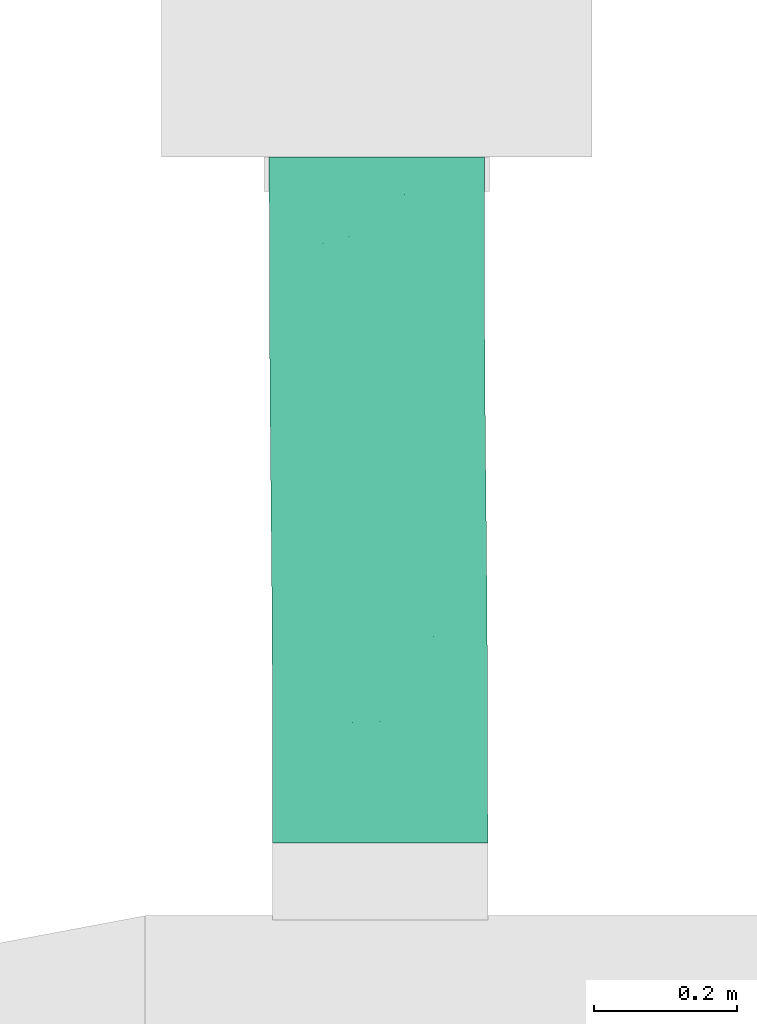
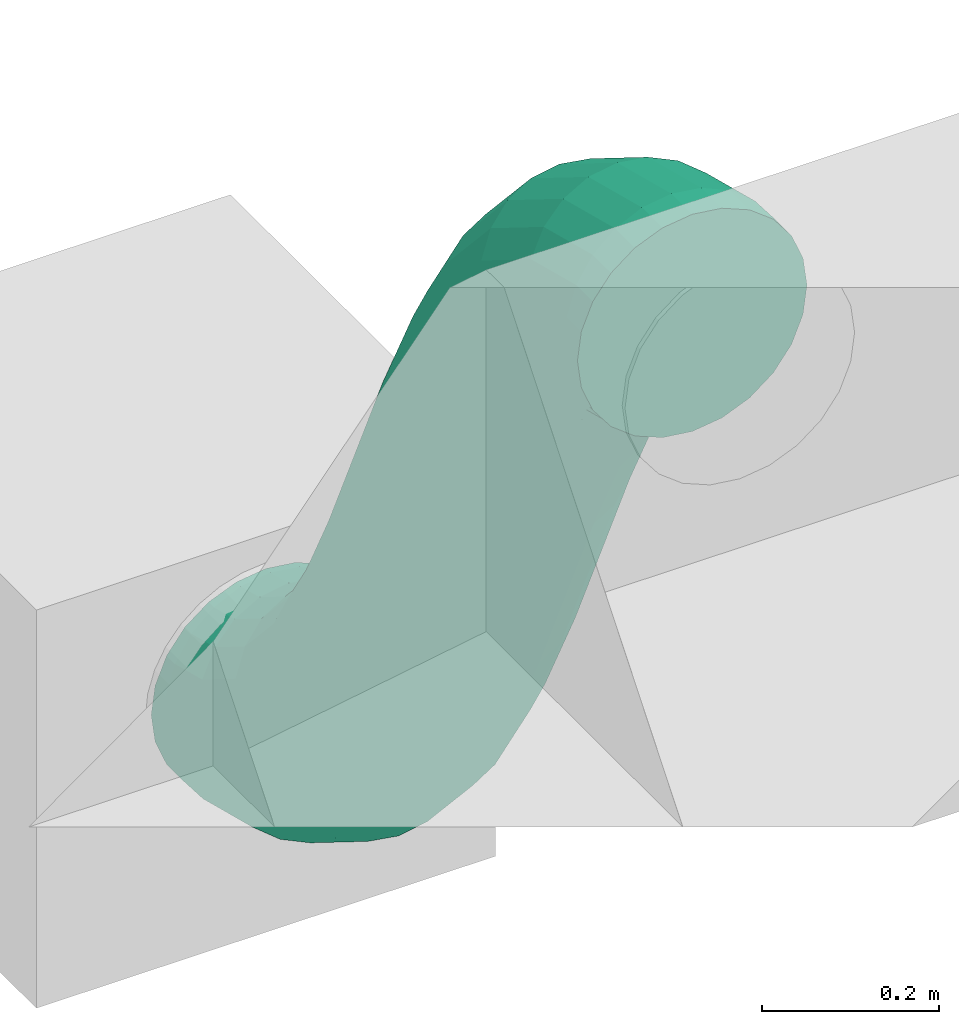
# One storey, part 39 of 60: 1 flow segment.
"""IFC2X3 building model written with IfcOpenShell, lengths in millimetres."""

from ifc_helpers import new_model, entity, si_unit, converted_unit, derived_unit, direction, frame, origin, place, context, subcontext, project, spatial, faceted_brep, type_object, element, save


model = new_model("IFC2X3")

# Units and contexts
model_context = context("Model", 3, precision=0.01, world=origin(), true_north=direction((6.123233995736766e-17, 1.0)))
body_context = subcontext(model_context, "Body", "Model", "MODEL_VIEW")
ifc_project = project(units=[si_unit("LENGTHUNIT", "METRE", prefix="MILLI"), converted_unit("PLANEANGLEUNIT", "DEGREE", entity("IfcPlaneAngleMeasure", 0.017453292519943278), si_unit("PLANEANGLEUNIT", "RADIAN"), dimensions=[0, 0, 0, 0, 0, 0, 0]), si_unit("AREAUNIT", "SQUARE_METRE"), derived_unit("THERMALTRANSMITTANCEUNIT", [(si_unit("MASSUNIT", "GRAM", prefix="KILO"), 1), (si_unit("THERMODYNAMICTEMPERATUREUNIT", "KELVIN"), -1), (si_unit("TIMEUNIT", "SECOND"), -3)])], contexts=[model_context])

# Site, building, storey
site_placement = place(None, origin())
site = spatial("IfcSite", under=ifc_project, at=site_placement, Name="Default", CompositionType="ELEMENT")
building_placement = place(site_placement, origin())
building = spatial("IfcBuilding", under=site, at=building_placement, Name="Praça Pedro II, 1301 - Centro (Sul), Teresina - PI, 64001-100", CompositionType="ELEMENT")
storey_placement = place(building_placement, frame((0.0, 0.0, 6040.0)))
storey = spatial("IfcBuildingStorey", under=building, at=storey_placement, Name="2PAV", CompositionType="ELEMENT", Elevation=6040.0)

# Flow segment
duct_segment_type = type_object("IfcDuctSegmentType", Name="Duto flexível redondo:Flexível - Redondo", PredefinedType="FLEXIBLESEGMENT")
flow_segment_placement = place(storey_placement, frame((22400.39412110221, -64268.308035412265, 2260.904727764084)))
element("IfcFlowSegment", 1, at=flow_segment_placement, inside=storey, type_object=duct_segment_type, Name="Duto flexível redondo:Flexível - Redondo", ObjectType="Duto flexível redondo:Flexível - Redondo", context=body_context, shape_type="Brep", body=[
    faceted_brep([(76.59527223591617, 956.3910904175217, 281.49908280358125), (112.77241547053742, 956.3910904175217, 296.48414617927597), (151.59527223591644, 956.3910904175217, 301.5952722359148), (190.41812900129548, 956.3910904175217, 296.48414617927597), (226.59527223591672, 956.3910904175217, 281.49908280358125), (257.66128941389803, 956.3910904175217, 257.66128941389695), (281.49908280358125, 956.3910904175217, 226.59527223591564), (296.48414617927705, 956.3910904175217, 190.41812900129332), (301.595272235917, 956.3910904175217, 151.59527223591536), (296.48414617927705, 956.3910904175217, 112.77241547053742), (281.49908280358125, 956.3910904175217, 76.59527223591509), (257.66128941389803, 956.3910904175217, 45.529255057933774), (226.59527223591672, 956.3910904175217, 21.691461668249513), (190.41812900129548, 956.3910904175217, 6.706398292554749), (151.59527223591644, 956.3910904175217, 1.5952722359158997), (112.77241547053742, 956.3910904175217, 6.706398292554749), (76.59527223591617, 956.3910904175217, 21.691461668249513), (45.52925505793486, 956.3910904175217, 45.529255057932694), (21.69146166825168, 956.3910904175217, 76.59527223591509), (6.706398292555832, 956.3910904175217, 112.77241547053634), (1.5952722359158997, 956.3910904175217, 151.59527223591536), (6.706398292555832, 956.3910904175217, 190.41812900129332), (21.69146166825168, 956.3910904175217, 226.59527223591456), (45.52925505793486, 956.3910904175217, 257.66128941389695), (296.48414617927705, 923.4567405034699, 112.7724154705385), (281.49908280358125, 918.8850771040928, 76.59527223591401), (257.66128941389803, 914.9530725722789, 45.529255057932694), (301.595272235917, 928.3565114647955, 151.59527223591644), (226.59527223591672, 911.9286865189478, 21.691461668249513), (190.41812900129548, 910.0180258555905, 6.706398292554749), (151.59527223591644, 909.3512989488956, 1.5952722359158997), (112.77241547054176, 909.9739421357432, 6.706398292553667), (76.59527223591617, 911.843523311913, 21.691461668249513), (45.52925505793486, 914.8326336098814, 45.529255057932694), (21.69146166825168, 918.7375701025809, 76.59527223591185), (6.706398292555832, 923.2922178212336, 112.77241547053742), (1.5952722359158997, 928.1861850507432, 151.59527223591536), (6.706398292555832, 933.0859560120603, 190.41812900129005), (21.69146166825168, 937.6576194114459, 226.59527223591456), (45.52925505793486, 941.5896239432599, 257.6612894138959), (112.77241547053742, 946.5246706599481, 296.4841461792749), (151.59527223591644, 947.191397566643, 301.5952722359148), (76.59527223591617, 944.6140099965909, 281.49908280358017), (226.59527223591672, 944.6991732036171, 281.49908280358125), (257.66128941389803, 941.7100629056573, 257.66128941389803), (190.41812900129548, 946.5687543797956, 296.48414617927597), (296.48414617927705, 933.250478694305, 190.41812900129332), (281.49908280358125, 937.8051264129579, 226.5952722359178), (156.400319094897, 0.0, 1369.095272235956), (117.57746232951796, 0.0, 1363.9841461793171), (81.4003190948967, 0.0, 1348.9990828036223), (50.334301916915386, 0.0, 1325.161289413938), (26.49650852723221, 0.0, 1294.0952722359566), (11.511445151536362, 0.0, 1257.9181290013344), (6.400319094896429, 0.0, 1219.0952722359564), (11.511445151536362, 0.0, 1180.2724154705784), (26.49650852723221, 0.0, 1144.0952722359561), (50.334301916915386, 0.0, 1113.0292550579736), (81.4003190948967, 0.0, 1089.1914616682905), (117.57746232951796, 0.0, 1074.2063982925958), (156.400319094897, 0.0, 1069.0952722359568), (195.223175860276, 0.0, 1074.2063982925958), (231.40031909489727, 0.0, 1089.1914616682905), (262.46633627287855, 0.0, 1113.0292550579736), (286.30412966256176, 0.0, 1144.0952722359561), (301.2891930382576, 0.0, 1180.2724154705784), (306.40031909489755, 0.0, 1219.0952722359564), (301.2891930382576, 0.0, 1257.9181290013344), (286.30412966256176, 0.0, 1294.0952722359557), (262.46633627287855, 0.0, 1325.161289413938), (231.40031909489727, 0.0, 1348.9990828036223), (195.223175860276, 0.0, 1363.9841461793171), (301.68960486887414, 846.603074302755, 172.55242179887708), (296.590624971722, 831.1768263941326, 136.4279830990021), (281.6168944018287, 816.7835795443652, 102.76856144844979), (257.7888481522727, 804.404209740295, 73.86799080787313), (226.7303281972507, 794.8823505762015, 51.69579730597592), (190.55792134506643, 788.8669010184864, 37.76297928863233), (151.73671734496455, 786.7678040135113, 33.01903527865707), (112.91231709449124, 788.7281095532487, 37.78725722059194), (76.73053931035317, 794.6142260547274, 51.74269866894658), (45.657112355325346, 804.025024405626, 73.93431935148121), (21.80963892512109, 816.319174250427, 102.84979699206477), (6.813284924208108, 830.6588495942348, 136.51858957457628), (1.6900270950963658, 846.0668252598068, 172.64622452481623), (6.789006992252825, 861.4930731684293, 208.7706632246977), (21.762737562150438, 875.8863200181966, 242.43008487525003), (45.590783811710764, 888.2656898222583, 271.3306555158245), (76.64930376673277, 897.7875489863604, 293.5028490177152), (112.82171061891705, 903.8029985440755, 307.4356670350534), (151.64291461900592, 905.9020955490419, 312.17961104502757), (190.46731486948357, 903.9417900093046, 307.4113891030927), (226.649092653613, 898.0556735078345, 293.45594765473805), (257.72251960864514, 888.6448751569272, 271.2643269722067), (296.56634703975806, 862.0110499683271, 208.68005674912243), (281.5699930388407, 876.3507253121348, 242.34884933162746), (301.9505230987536, 753.2724303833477, 230.51860164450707), (296.87843575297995, 728.2266969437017, 200.36867254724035), (281.92979690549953, 704.8581224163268, 172.28368429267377), (258.1233315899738, 684.7592365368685, 148.17758241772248), (227.08141107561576, 669.2997451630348, 129.6931579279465), (190.91949094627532, 659.5331870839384, 118.09009380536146), (152.1019462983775, 656.1251370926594, 114.1591196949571), (113.27412865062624, 659.3078481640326, 118.16812498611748), (77.08208960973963, 668.8644237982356, 129.84390259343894), (45.99225682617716, 684.1435991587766, 148.39076756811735), (22.123351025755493, 704.104123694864, 172.54478171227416), (7.101998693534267, 727.385720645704, 200.659888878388), (1.951880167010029, 752.4017876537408, 230.82009097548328), (7.023967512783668, 777.4475210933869, 260.97002007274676), (21.972606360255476, 800.8160956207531, 289.0550083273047), (45.779071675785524, 820.9149815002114, 313.16111020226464), (76.82099219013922, 836.3744728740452, 331.6455346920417), (112.98291231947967, 846.1410309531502, 343.2485988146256), (151.80045696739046, 849.5490809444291, 347.1795729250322), (190.62827461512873, 846.3663698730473, 343.17056763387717), (226.82031365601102, 836.8097942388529, 331.49479002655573), (257.91014643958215, 821.5306188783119, 312.9479250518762), (296.80040457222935, 778.2884973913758, 260.6788037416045), (281.7790522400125, 801.570094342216, 288.79391090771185), (302.3448797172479, 673.1233690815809, 318.1297535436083), (297.3017063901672, 642.2011488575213, 294.4034277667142), (282.3800453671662, 613.3495997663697, 272.31189357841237), (258.5967831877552, 588.534907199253, 253.36065252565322), (227.57270986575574, 569.4481514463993, 238.84120036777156), (191.42206472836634, 557.3900633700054, 229.7430137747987), (152.60845449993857, 553.1823817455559, 226.68611912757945), (113.7769625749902, 557.1118531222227, 229.87883874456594), (77.57389095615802, 568.910690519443, 239.10359406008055), (46.466419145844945, 587.7748226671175, 253.73173324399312), (22.574469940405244, 612.4186901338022, 272.7663727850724), (7.526240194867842, 641.1628540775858, 294.91033345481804), (2.347241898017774, 672.0484472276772, 318.65454092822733), (7.390415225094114, 702.9706674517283, 342.3808667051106), (22.31207624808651, 731.8222165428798, 364.47240089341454), (46.09533842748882, 756.6369091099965, 383.42364194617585), (77.1194117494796, 775.723664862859, 397.9430941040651), (113.270056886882, 787.7817529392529, 407.0412806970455), (152.0836671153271, 791.989434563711, 410.09817534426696), (190.91515904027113, 788.0599631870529, 406.9054557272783), (227.1182306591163, 776.2611257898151, 397.68070041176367), (258.2257024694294, 757.3969936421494, 383.0525612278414), (297.1658814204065, 704.0089622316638, 341.8739610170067), (282.1176516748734, 732.7531261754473, 364.01792168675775), (302.83949901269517, 602.8561631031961, 428.0154868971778), (297.8161761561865, 569.113921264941, 408.6991862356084), (282.9130363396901, 537.6311900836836, 390.72236487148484), (259.14570391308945, 510.55346566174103, 375.31011347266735), (228.1338833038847, 489.72605017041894, 363.51275150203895), (191.990978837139, 476.5682975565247, 356.13424968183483), (153.18006972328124, 471.9768869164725, 353.6774407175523), (114.34605528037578, 476.2647152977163, 356.3097520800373), (78.1354094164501, 489.1395742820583, 363.8517961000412), (47.01582780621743, 509.7240635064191, 375.7895949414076), (23.108058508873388, 536.6153840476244, 391.30960734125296), (8.04137649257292, 567.9809368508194, 409.3541701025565), (2.8425512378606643, 601.6832113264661, 428.6935760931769), (7.86587409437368, 635.4254531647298, 448.0098767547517), (22.769013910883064, 666.9081843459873, 465.9866981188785), (46.53634633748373, 693.9859087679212, 481.39894951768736), (77.54816694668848, 714.8133242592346, 493.1963114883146), (113.69107141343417, 727.9710768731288, 500.57481330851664), (152.5019805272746, 732.562487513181, 503.0316222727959), (191.33599497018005, 728.2746591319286, 500.39931091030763), (227.54664083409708, 715.3998001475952, 492.85726689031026), (258.6662224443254, 694.815310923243, 480.9194680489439), (297.64067375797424, 636.5584375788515, 447.3548928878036), (282.5739917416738, 667.9239903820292, 465.39945564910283), (303.4010098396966, 539.1848354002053, 552.7619931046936), (298.38863295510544, 504.201398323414, 535.8774741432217), (283.4957061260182, 471.56058712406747, 520.1695929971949), (259.7371577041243, 443.48681914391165, 506.7088158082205), (228.73209350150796, 421.8932752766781, 496.4124722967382), (192.59345740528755, 408.25151985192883, 489.98224125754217), (153.78403774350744, 403.4912159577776, 487.85633230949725), (114.94863233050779, 407.93677043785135, 490.1796226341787), (78.73380986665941, 421.2852261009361, 496.79378383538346), (47.607550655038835, 442.6269077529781, 507.24807175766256), (23.691057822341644, 470.5074150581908, 520.8300439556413), (8.614200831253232, 503.0267375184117, 536.6141114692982), (3.404442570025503, 537.9687370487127, 553.5246161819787), (8.41681945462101, 572.9521741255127, 570.4091351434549), (23.309746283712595, 605.5929853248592, 586.1170162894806), (47.068294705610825, 633.666753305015, 599.5777934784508), (78.07335890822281, 655.2602971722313, 609.8741369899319), (114.21199500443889, 668.9020525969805, 616.3043680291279), (153.02141466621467, 673.6623564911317, 618.4302769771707), (191.85682007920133, 669.2168020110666, 616.1069866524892), (228.07164254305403, 655.8683463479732, 609.4928254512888), (259.1979017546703, 634.5266646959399, 599.0385375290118), (298.1912515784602, 574.1268349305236, 569.6724978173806), (283.1143945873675, 606.6461573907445, 585.4565653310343), (298.9871018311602, 443.475221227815, 668.8346635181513), (299.57877187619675, 383.43891629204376, 800.2814093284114), (284.68584504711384, 350.7981050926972, 784.5735281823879), (284.097402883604, 410.5068793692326, 653.8438957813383), (303.9960191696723, 478.8096957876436, 684.9506019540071), (304.59114876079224, 418.42235336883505, 817.1659282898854), (260.3416307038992, 382.1514082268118, 640.9998947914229), (260.92729662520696, 322.7243371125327, 771.1127509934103), (229.3387019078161, 360.34118629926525, 631.1779579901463), (229.9222324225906, 301.1307932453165, 760.8164074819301), (193.78359632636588, 287.4890378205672, 754.3861764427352), (193.20141485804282, 346.5625441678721, 625.0474341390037), (154.97417666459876, 282.7287339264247, 752.260267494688), (154.39246594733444, 341.7544735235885, 623.0261083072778), (116.13877125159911, 287.1742884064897, 754.5835578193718), (115.55662090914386, 346.2446364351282, 625.2517305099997), (79.92394878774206, 300.52274406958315, 761.1977190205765), (79.34047840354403, 359.72703572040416, 631.5726282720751), (48.79768957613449, 321.8644257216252, 771.6520069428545), (48.21210869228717, 381.28286814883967, 641.5580428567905), (24.292858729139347, 409.4431393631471, 654.5274847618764), (24.881196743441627, 349.74493302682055, 785.2339791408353), (9.80433975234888, 382.2642554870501, 801.0180466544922), (9.21278587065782, 442.2887734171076, 669.5971079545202), (4.594581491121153, 417.20625501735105, 817.928551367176), (3.9995721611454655, 477.5813946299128, 685.7399425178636), (9.606958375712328, 452.1896920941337, 834.8130703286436), (9.008489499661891, 512.9158691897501, 701.8558809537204), (24.49988520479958, 484.83050329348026, 850.5209514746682), (23.89818844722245, 545.8842110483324, 716.8466486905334), (48.25843362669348, 512.9042712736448, 863.9817286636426), (47.65396062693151, 574.2396821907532, 729.6906496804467), (78.65688942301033, 596.0499041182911, 739.5125864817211), (79.26349782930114, 534.497815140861, 874.2780721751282), (115.40213392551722, 548.1395705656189, 880.7083032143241), (114.7941764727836, 609.8285462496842, 745.6431103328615), (154.21155358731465, 552.8998744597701, 882.8342121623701), (153.60312538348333, 614.6366168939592, 747.6644361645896), (193.04695900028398, 548.454319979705, 880.5109218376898), (192.4389704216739, 610.1464539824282, 745.4388139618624), (229.26178146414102, 535.1058643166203, 873.8967606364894), (228.6551129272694, 596.6640546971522, 739.1179161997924), (259.78348263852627, 575.1082222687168, 729.132501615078), (260.3880406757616, 513.7641826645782, 863.4424727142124), (283.7027326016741, 546.9479510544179, 716.1630597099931), (284.3045335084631, 485.88367535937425, 849.8605005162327), (299.3813904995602, 453.36435289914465, 834.0764330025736), (298.7828054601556, 514.1023170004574, 701.0934365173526), (300.1297172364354, 320.96563725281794, 922.6806677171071), (285.22657741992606, 289.4829060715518, 904.7038463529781), (305.1530400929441, 354.7078790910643, 941.9969683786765), (261.4592449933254, 262.4051816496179, 889.2915949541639), (230.44742438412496, 241.57776615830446, 877.4942329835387), (194.30451991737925, 228.4200135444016, 870.1157311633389), (155.49361080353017, 223.82860290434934, 867.6589221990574), (116.65959636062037, 228.1164312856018, 870.2912335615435), (80.44895049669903, 240.99129026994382, 877.8332775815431), (49.32936888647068, 261.575779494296, 889.7710764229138), (10.354917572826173, 319.8326528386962, 923.3356515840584), (5.156092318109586, 353.53492731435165, 942.6750575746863), (25.42159958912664, 288.46710003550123, 905.2910888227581), (10.17941517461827, 387.277169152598, 961.9913582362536), (25.082554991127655, 418.75990033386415, 979.9681796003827), (48.84988741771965, 445.83762475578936, 995.3804309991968), (79.8617080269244, 466.6650402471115, 1007.177792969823), (116.00461249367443, 479.8227928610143, 1014.5562947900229), (154.81552160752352, 484.41420350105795, 1017.0131037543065), (193.649536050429, 480.12637511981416, 1014.3807923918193), (229.86018191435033, 467.2515161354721, 1006.8387483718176), (260.9797635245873, 446.6670269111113, 994.900949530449), (284.88753282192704, 419.77570636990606, 979.380937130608), (299.95421483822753, 388.4101535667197, 961.3363743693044), (300.60517610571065, 253.42042296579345, 1028.3096777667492), (285.68351508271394, 224.56887387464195, 1006.2181435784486), (305.64834943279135, 284.3426431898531, 1052.0360035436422), (261.90025290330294, 199.7541813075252, 987.266902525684), (230.8761795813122, 180.66742555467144, 972.7474503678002), (194.72553444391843, 168.60933747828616, 963.649263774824), (155.911924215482, 164.40165585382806, 960.5923691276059), (117.0804322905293, 168.3311272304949, 963.7850887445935), (80.87736067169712, 180.12996462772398, 973.009844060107), (49.76988886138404, 198.9940967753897, 987.637983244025), (10.829709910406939, 252.3821281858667, 1028.816583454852), (5.650711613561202, 283.2677213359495, 1052.5607909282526), (25.877939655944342, 223.63796424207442, 1006.6726227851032), (10.693884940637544, 314.1899415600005, 1076.287116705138), (25.615545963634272, 343.04149065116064, 1098.378650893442), (49.39880814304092, 367.8561832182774, 1117.3298919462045), (80.4228814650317, 386.9429389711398, 1131.8493441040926), (116.57352660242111, 399.0010270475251, 1140.9475306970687), (155.38713683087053, 403.2087086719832, 1144.0044253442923), (194.21862875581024, 399.279237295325, 1140.8117057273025), (230.42170037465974, 387.4803998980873, 1131.5869504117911), (261.5291721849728, 368.61626775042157, 1116.958811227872), (285.4211213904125, 343.97240028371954, 1097.9241716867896), (300.4693511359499, 315.2282363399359, 1075.7802110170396), (300.9716238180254, 178.94356932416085, 1109.7205243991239), (286.0229849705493, 155.57499479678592, 1081.635536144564), (306.04371116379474, 203.98930276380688, 1139.8704534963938), (262.2165196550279, 135.47610891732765, 1057.5294342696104), (231.17459914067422, 120.01661754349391, 1039.04500977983), (195.01267901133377, 110.25005946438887, 1027.441945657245), (156.1951343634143, 106.84200947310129, 1023.5109715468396), (117.36731671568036, 110.02472054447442, 1027.5199768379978), (81.17527767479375, 119.58129617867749, 1039.195754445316), (50.08544489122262, 134.86047153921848, 1057.7426194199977), (11.195186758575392, 178.10259302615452, 1110.0117407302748), (6.045068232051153, 203.11866003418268, 1140.1719428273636), (26.21653909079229, 154.82099607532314, 1081.896633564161), (11.117155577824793, 228.16439347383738, 1170.3218719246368), (26.065794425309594, 251.5329680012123, 1198.4068601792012), (49.87225974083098, 271.6318538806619, 1222.5129620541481), (80.91418025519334, 287.09134525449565, 1240.9973865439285), (117.07610038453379, 296.8579033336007, 1252.6004506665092), (155.89364503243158, 300.2659533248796, 1256.5314247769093), (194.7214626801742, 297.0832422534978, 1252.5224194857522), (230.9135017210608, 287.52666661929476, 1240.846641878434), (262.0033345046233, 272.24749125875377, 1222.2997769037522), (285.8722403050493, 252.28696672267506, 1198.1457627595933), (300.8935926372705, 229.00536977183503, 1170.0306555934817), (301.20658433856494, 94.89801724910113, 1161.9198812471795), (286.232853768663, 80.50477039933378, 1128.260459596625), (306.3055642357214, 110.32426515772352, 1198.0443199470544), (262.404807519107, 68.12540059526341, 1099.3598889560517), (231.34628756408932, 58.60354143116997, 1077.1876954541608), (195.17388071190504, 52.58809187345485, 1063.2548774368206), (156.3526767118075, 50.488994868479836, 1058.5109334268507), (117.5282764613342, 52.44930040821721, 1063.2791553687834), (81.34649867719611, 58.335416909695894, 1077.234596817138), (50.273071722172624, 67.7462152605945, 1099.4262174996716), (11.429244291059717, 94.38004044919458, 1162.010487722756), (6.305986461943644, 109.78801611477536, 1198.1381226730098), (26.425598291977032, 80.04036510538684, 1128.3416951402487), (11.404966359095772, 125.21426402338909, 1234.262561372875), (26.378696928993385, 139.60751087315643, 1267.9219830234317), (50.206743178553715, 151.98688067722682, 1296.8225536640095), (81.26526313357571, 161.50873984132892, 1318.9947471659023), (117.43766998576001, 167.52418939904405, 1332.9275651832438), (156.25887398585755, 169.62328640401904, 1337.671509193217), (195.08327423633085, 167.662980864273, 1332.9032872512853), (231.26505202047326, 161.776864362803, 1318.9478458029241), (262.33847897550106, 152.36606601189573, 1296.7562251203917), (286.1859524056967, 140.07191616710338, 1267.8407474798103), (301.18230640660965, 125.73224082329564, 1234.1719548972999), (301.2891930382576, 23.30513440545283, 1180.2724154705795), (286.30412966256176, 18.73347100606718, 1144.0952722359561), (306.40031909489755, 28.204905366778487, 1219.0952722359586), (262.46633627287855, 14.801466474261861, 1113.0292550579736), (231.40031909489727, 11.777080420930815, 1089.1914616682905), (195.22317586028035, 9.866419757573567, 1074.2063982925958), (156.400319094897, 9.199692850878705, 1069.095272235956), (117.57746232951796, 9.822336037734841, 1074.2063982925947), (81.4003190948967, 11.691917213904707, 1089.1914616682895), (50.334301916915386, 14.681027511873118, 1113.0292550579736), (11.511445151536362, 23.14061172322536, 1180.2724154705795), (6.400319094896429, 28.03457895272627, 1219.0952722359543), (26.49650852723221, 18.585964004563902, 1144.095272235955), (11.511445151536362, 32.93434991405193, 1257.9181290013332), (26.49650852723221, 37.50601331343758, 1294.0952722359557), (50.334301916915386, 41.438017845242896, 1325.161289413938), (81.4003190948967, 44.4624038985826, 1348.999082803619), (117.57746232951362, 46.37306456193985, 1363.9841461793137), (156.400319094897, 47.03979146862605, 1369.0952722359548), (195.223175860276, 46.41714828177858, 1363.9841461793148), (231.40031909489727, 44.547567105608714, 1348.99908280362), (262.46633627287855, 41.558456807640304, 1325.161289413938), (286.30412966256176, 37.653520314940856, 1294.0952722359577), (301.2891930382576, 33.09887259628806, 1257.9181290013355)], [[[0, 1, 2, 3, 4, 5, 6, 7, 8, 9, 10, 11, 12, 13, 14, 15, 16, 17, 18, 19, 20, 21, 22, 23]], [[10, 9, 24, 25]], [[11, 10, 25, 26]], [[8, 27, 24, 9]], [[13, 12, 28, 29]], [[14, 13, 29, 30]], [[11, 26, 28, 12]], [[14, 30, 31, 15]], [[15, 31, 32, 16]], [[16, 32, 33, 17]], [[18, 34, 35, 19]], [[19, 35, 36, 20]], [[17, 33, 34, 18]], [[37, 38, 22, 21]], [[36, 37, 21, 20]], [[22, 38, 39, 23]], [[40, 41, 2, 1]], [[42, 40, 1, 0]], [[23, 39, 42, 0]], [[4, 43, 44, 5]], [[45, 43, 4, 3]], [[2, 41, 45, 3]], [[46, 27, 8, 7]], [[47, 46, 7, 6]], [[44, 47, 6, 5]], [[48, 49, 50, 51, 52, 53, 54, 55, 56, 57, 58, 59, 60, 61, 62, 63, 64, 65, 66, 67, 68, 69, 70, 71]], [[24, 27, 72, 73]], [[25, 24, 73, 74]], [[26, 25, 74, 75]], [[29, 28, 76, 77]], [[30, 29, 77, 78]], [[75, 76, 28, 26]], [[30, 78, 79, 31]], [[31, 79, 80, 32]], [[32, 80, 81, 33]], [[33, 81, 82, 34]], [[34, 82, 83, 35]], [[84, 36, 35, 83]], [[85, 86, 38, 37]], [[84, 85, 37, 36]], [[87, 39, 38, 86]], [[88, 89, 40, 42]], [[88, 42, 39, 87]], [[90, 41, 40, 89]], [[91, 92, 43, 45]], [[90, 91, 45, 41]], [[44, 43, 92, 93]], [[94, 72, 27, 46]], [[95, 94, 46, 47]], [[93, 95, 47, 44]], [[72, 96, 97, 73]], [[73, 97, 98, 74]], [[99, 75, 74, 98]], [[76, 100, 101, 77]], [[77, 101, 102, 78]], [[100, 76, 75, 99]], [[79, 78, 102, 103]], [[80, 79, 103, 104]], [[104, 105, 81, 80]], [[82, 81, 105, 106]], [[83, 82, 106, 107]], [[84, 83, 107, 108]], [[109, 110, 86, 85]], [[108, 109, 85, 84]], [[87, 86, 110, 111]], [[112, 113, 89, 88]], [[111, 112, 88, 87]], [[90, 89, 113, 114]], [[115, 116, 92, 91]], [[114, 115, 91, 90]], [[117, 93, 92, 116]], [[118, 96, 72, 94]], [[119, 118, 94, 95]], [[119, 95, 93, 117]], [[96, 120, 121, 97]], [[97, 121, 122, 98]], [[123, 99, 98, 122]], [[100, 124, 125, 101]], [[101, 125, 126, 102]], [[124, 100, 99, 123]], [[103, 102, 126, 127]], [[104, 103, 127, 128]], [[128, 129, 105, 104]], [[106, 105, 129, 130]], [[107, 106, 130, 131]], [[108, 107, 131, 132]], [[133, 134, 110, 109]], [[132, 133, 109, 108]], [[111, 110, 134, 135]], [[136, 137, 113, 112]], [[135, 136, 112, 111]], [[114, 113, 137, 138]], [[139, 140, 116, 115]], [[138, 139, 115, 114]], [[141, 117, 116, 140]], [[142, 120, 96, 118]], [[143, 142, 118, 119]], [[143, 119, 117, 141]], [[120, 144, 145, 121]], [[121, 145, 146, 122]], [[147, 123, 122, 146]], [[124, 148, 149, 125]], [[125, 149, 150, 126]], [[148, 124, 123, 147]], [[127, 126, 150, 151]], [[128, 127, 151, 152]], [[152, 153, 129, 128]], [[130, 129, 153, 154]], [[131, 130, 154, 155]], [[132, 131, 155, 156]], [[157, 158, 134, 133]], [[156, 157, 133, 132]], [[135, 134, 158, 159]], [[160, 161, 137, 136]], [[159, 160, 136, 135]], [[138, 137, 161, 162]], [[163, 164, 140, 139]], [[162, 163, 139, 138]], [[165, 141, 140, 164]], [[166, 144, 120, 142]], [[167, 166, 142, 143]], [[167, 143, 141, 165]], [[144, 168, 169, 145]], [[145, 169, 170, 146]], [[171, 147, 146, 170]], [[148, 172, 173, 149]], [[149, 173, 174, 150]], [[172, 148, 147, 171]], [[151, 150, 174, 175]], [[152, 151, 175, 176]], [[176, 177, 153, 152]], [[154, 153, 177, 178]], [[155, 154, 178, 179]], [[156, 155, 179, 180]], [[181, 182, 158, 157]], [[180, 181, 157, 156]], [[159, 158, 182, 183]], [[184, 185, 161, 160]], [[183, 184, 160, 159]], [[162, 161, 185, 186]], [[187, 188, 164, 163]], [[186, 187, 163, 162]], [[189, 165, 164, 188]], [[190, 168, 144, 166]], [[191, 190, 166, 167]], [[191, 167, 165, 189]], [[192, 193, 194, 195, 170, 169]], [[196, 197, 193, 192, 169, 168]], [[198, 171, 170, 195, 194, 199]], [[172, 200, 201, 202, 203, 173]], [[173, 203, 202, 204, 205, 174]], [[200, 172, 171, 198, 199, 201]], [[175, 174, 205, 204, 206, 207]], [[176, 175, 207, 206, 208, 209]], [[209, 208, 210, 211, 177, 176]], [[179, 178, 212, 213, 214, 215]], [[180, 179, 215, 214, 216, 217]], [[211, 210, 213, 212, 178, 177]], [[181, 180, 217, 216, 218, 219]], [[182, 181, 219, 218, 220, 221]], [[183, 182, 221, 220, 222, 223]], [[185, 184, 224, 225, 226, 227]], [[186, 185, 227, 226, 228, 229]], [[223, 222, 225, 224, 184, 183]], [[186, 229, 228, 230, 231, 187]], [[187, 231, 230, 232, 233, 188]], [[234, 189, 188, 233, 232, 235]], [[191, 236, 237, 238, 239, 190]], [[190, 239, 238, 197, 196, 168]], [[236, 191, 189, 234, 235, 237]], [[240, 241, 194, 193]], [[242, 240, 193, 197]], [[243, 199, 194, 241]], [[244, 245, 202, 201]], [[244, 201, 199, 243]], [[246, 204, 202, 245]], [[247, 248, 208, 206]], [[246, 247, 206, 204]], [[210, 208, 248, 249]], [[250, 251, 216, 214]], [[252, 250, 214, 213]], [[249, 252, 213, 210]], [[218, 216, 251, 253]], [[220, 218, 253, 254]], [[222, 220, 254, 255]], [[226, 225, 256, 257]], [[228, 226, 257, 258]], [[255, 256, 225, 222]], [[228, 258, 259, 230]], [[230, 259, 260, 232]], [[232, 260, 261, 235]], [[235, 261, 262, 237]], [[237, 262, 263, 238]], [[242, 197, 238, 263]], [[264, 265, 241, 240]], [[266, 264, 240, 242]], [[267, 243, 241, 265]], [[268, 269, 245, 244]], [[268, 244, 243, 267]], [[270, 246, 245, 269]], [[271, 272, 248, 247]], [[270, 271, 247, 246]], [[249, 248, 272, 273]], [[274, 275, 251, 250]], [[276, 274, 250, 252]], [[273, 276, 252, 249]], [[253, 251, 275, 277]], [[254, 253, 277, 278]], [[255, 254, 278, 279]], [[257, 256, 280, 281]], [[258, 257, 281, 282]], [[279, 280, 256, 255]], [[258, 282, 283, 259]], [[259, 283, 284, 260]], [[260, 284, 285, 261]], [[261, 285, 286, 262]], [[262, 286, 287, 263]], [[266, 242, 263, 287]], [[288, 289, 265, 264]], [[290, 288, 264, 266]], [[291, 267, 265, 289]], [[292, 293, 269, 268]], [[292, 268, 267, 291]], [[294, 270, 269, 293]], [[295, 296, 272, 271]], [[294, 295, 271, 270]], [[273, 272, 296, 297]], [[298, 299, 275, 274]], [[300, 298, 274, 276]], [[297, 300, 276, 273]], [[277, 275, 299, 301]], [[278, 277, 301, 302]], [[279, 278, 302, 303]], [[281, 280, 304, 305]], [[282, 281, 305, 306]], [[303, 304, 280, 279]], [[282, 306, 307, 283]], [[283, 307, 308, 284]], [[284, 308, 309, 285]], [[285, 309, 310, 286]], [[286, 310, 311, 287]], [[290, 266, 287, 311]], [[312, 313, 289, 288]], [[314, 312, 288, 290]], [[315, 291, 289, 313]], [[316, 317, 293, 292]], [[316, 292, 291, 315]], [[318, 294, 293, 317]], [[319, 320, 296, 295]], [[318, 319, 295, 294]], [[297, 296, 320, 321]], [[322, 323, 299, 298]], [[324, 322, 298, 300]], [[321, 324, 300, 297]], [[301, 299, 323, 325]], [[302, 301, 325, 326]], [[303, 302, 326, 327]], [[305, 304, 328, 329]], [[306, 305, 329, 330]], [[327, 328, 304, 303]], [[306, 330, 331, 307]], [[307, 331, 332, 308]], [[308, 332, 333, 309]], [[309, 333, 334, 310]], [[310, 334, 335, 311]], [[314, 290, 311, 335]], [[336, 337, 313, 312]], [[338, 336, 312, 314]], [[315, 313, 337, 339]], [[340, 341, 317, 316]], [[339, 340, 316, 315]], [[318, 317, 341, 342]], [[343, 344, 320, 319]], [[342, 343, 319, 318]], [[345, 321, 320, 344]], [[346, 347, 323, 322]], [[348, 346, 322, 324]], [[348, 324, 321, 345]], [[323, 347, 349, 325]], [[325, 349, 350, 326]], [[351, 327, 326, 350]], [[328, 352, 353, 329]], [[329, 353, 354, 330]], [[352, 328, 327, 351]], [[331, 330, 354, 355]], [[332, 331, 355, 356]], [[356, 357, 333, 332]], [[334, 333, 357, 358]], [[335, 334, 358, 359]], [[314, 335, 359, 338]], [[336, 338, 66, 65]], [[337, 336, 65, 64]], [[339, 337, 64, 63]], [[341, 340, 62, 61]], [[342, 341, 61, 60]], [[339, 63, 62, 340]], [[342, 60, 59, 343]], [[343, 59, 58, 344]], [[344, 58, 57, 345]], [[348, 56, 55, 346]], [[346, 55, 54, 347]], [[348, 345, 57, 56]], [[347, 54, 53, 349]], [[349, 53, 52, 350]], [[350, 52, 51, 351]], [[352, 50, 49, 353]], [[353, 49, 48, 354]], [[351, 51, 50, 352]], [[355, 354, 48, 71]], [[356, 355, 71, 70]], [[357, 356, 70, 69]], [[359, 358, 68, 67]], [[338, 359, 67, 66]], [[69, 68, 358, 357]]]),
])

save(model, "model.ifc")
